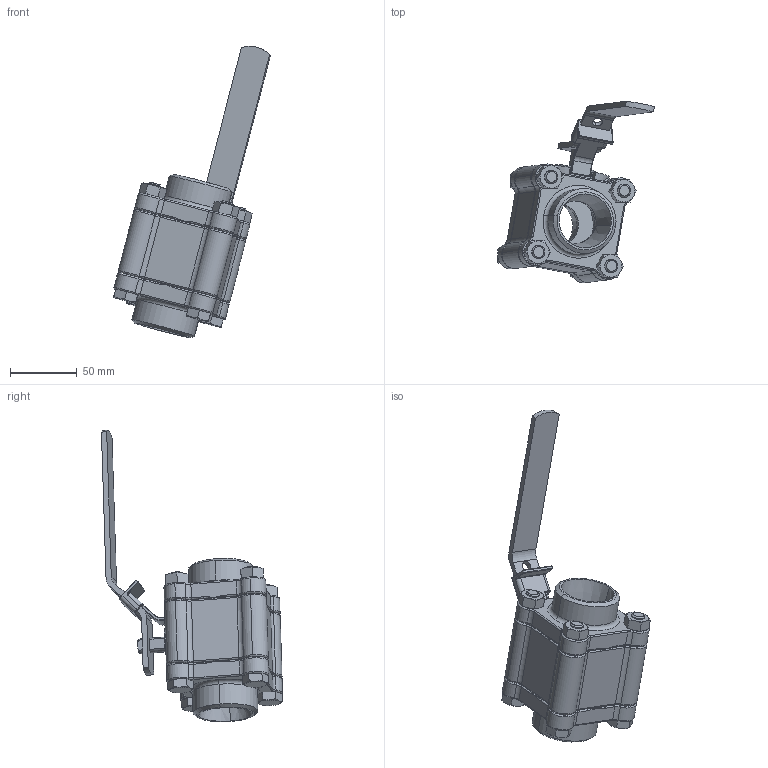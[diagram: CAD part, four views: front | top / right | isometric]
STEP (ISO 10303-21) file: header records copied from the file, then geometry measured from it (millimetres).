
FILE_DESCRIPTION (( 'STEP AP214' ), '1' );
FILE_NAME ('Z85BK2G.STEP', '2010-09-29T05:42:25', ( 'Hsu22' ), ( 'Hollings' ), 'SwSTEP 2.0', 'SolidWorks 2008', '' );
FILE_SCHEMA (( 'AUTOMOTIVE_DESIGN' ));
Length unit declared in the file: millimetre
Products named in the file (7): Z85BK2G; SDD85T00FA2_預設; SA85T00TWFADX2_預設; SB85BK2GBEX0_預設; YNM10_預設; YSHM10-84_預設; SHA085T00E0_預設
Assembly tree (13 placements, depth 2):
  Z85BK2G
    YNM10_預設  x4
    SB85BK2GBEX0_預設  x2
    YSHM10-84_預設  x4
    SA85T00TWFADX2_預設
    SHA085T00E0_預設
    SDD85T00FA2_預設
Bounding box: 117.49 x 135.56 x 218.17 mm (x, y, z)
Volume: 298558.2 mm3; surface area: 108558.4 mm2
Topology: 13 solids, 13 shells, 640 faces, 1504 edges, 885 vertices
Faces by surface type: cylinder 216, plane 175, torus 106, cone 100, bspline 28, sphere 15
Entity records: 13786 total; most frequent: CARTESIAN_POINT 3497, DIRECTION 2321, ORIENTED_EDGE 2000, EDGE_CURVE 1000, AXIS2_PLACEMENT_3D 973, VERTEX_POINT 597, CIRCLE 547, EDGE_LOOP 473
